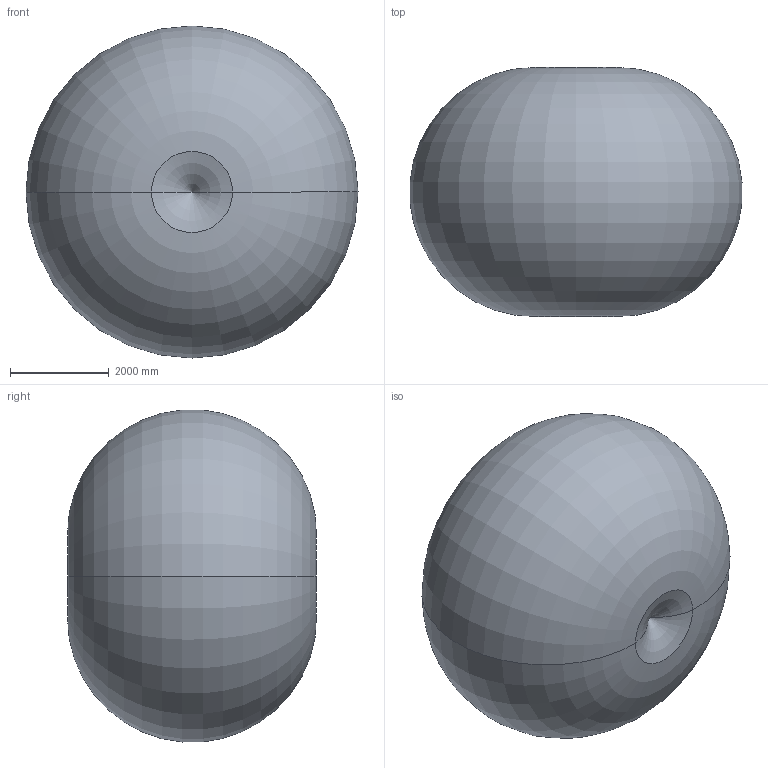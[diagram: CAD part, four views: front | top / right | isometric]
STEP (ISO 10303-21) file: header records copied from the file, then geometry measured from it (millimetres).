
FILE_DESCRIPTION (( 'STEP AP214' ), '1' );
FILE_NAME ('SMART-5 NJ4 165-3.4 SH (3D-STEP).STEP', '2012-03-13T10:37:18', ( '' ), ( '' ), 'SwSTEP 2.0', 'SolidWorks 2007', '' );
FILE_SCHEMA (( 'AUTOMOTIVE_DESIGN' ));
Length unit declared in the file: millimetre
Products named in the file (19): CR82353810 Volume lavoro SMART-5 NJ4-165-3.4 SH-1; SMART-5 NJ4 165-3.4 SH_CR82350031; SMART-5 NJ4 165-3.4 SH_CR82350041; SMART-5 NJ4 165-3.4 SH_CR82350050; SMART-5 NJ4 165-3.4 SH_CR82350090; SMART-5 NJ4 165-3.4 SH_p12; SMART-5 NJ4 165-3.4 SH_p11; SMART-5 NJ4 165-3.4 SH_p09; SMART-5 NJ4 165-3.4 SH_p10; SMART-5 NJ4 165-3.4 SH_p08; SMART-5 NJ4 165-3.4 SH_CR82350080; SMART-5 NJ4 165-3.4 SH (3D-STEP); SMART-5 NJ4 165-3.4 SH_p07; SMART-5 NJ4 165-3.4 SH_p03; SMART-5 NJ4 165-3.4 SH_p02; SMART-5 NJ4 165-3.4 SH_p01; SMART-5 NJ4 165-3.4 SH_p06; SMART-5 NJ4 165-3.4 SH_p05; SMART-5 NJ4 165-3.4 SH_p04
Assembly tree (19 placements, depth 2):
  SMART-5 NJ4 165-3.4 SH (3D-STEP)
    SMART-5 NJ4 165-3.4 SH_p07
    SMART-5 NJ4 165-3.4 SH_CR82350080
    SMART-5 NJ4 165-3.4 SH_CR82350090  x2
    SMART-5 NJ4 165-3.4 SH_CR82350031
    SMART-5 NJ4 165-3.4 SH_CR82350041
    SMART-5 NJ4 165-3.4 SH_p11
    SMART-5 NJ4 165-3.4 SH_p10
    SMART-5 NJ4 165-3.4 SH_p12
    SMART-5 NJ4 165-3.4 SH_p05
    SMART-5 NJ4 165-3.4 SH_p01
    SMART-5 NJ4 165-3.4 SH_CR82350050
    SMART-5 NJ4 165-3.4 SH_p09
    SMART-5 NJ4 165-3.4 SH_p03
    CR82353810 Volume lavoro SMART-5 NJ4-165-3.4 SH-1
    SMART-5 NJ4 165-3.4 SH_p08
    SMART-5 NJ4 165-3.4 SH_p04
    SMART-5 NJ4 165-3.4 SH_p06
    SMART-5 NJ4 165-3.4 SH_p02
Bounding box: 6739.65 x 5054.59 x 6739.65 mm (x, y, z)
Volume: 110019586724.6 mm3; surface area: 185169651 mm2
Topology: 19 solids, 20 shells, 4816 faces, 13019 edges, 8461 vertices
Faces by surface type: cylinder 2232, plane 1914, cone 304, bspline 248, torus 112, sphere 6
Entity records: 202625 total; most frequent: CARTESIAN_POINT 77687, ORIENTED_EDGE 25218, DIRECTION 22412, EDGE_CURVE 12609, VERTEX_POINT 8279, AXIS2_PLACEMENT_3D 8167, VECTOR 6078, LINE 6078
